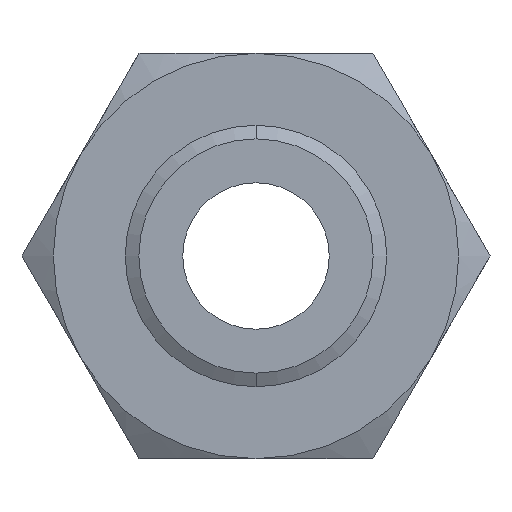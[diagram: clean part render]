
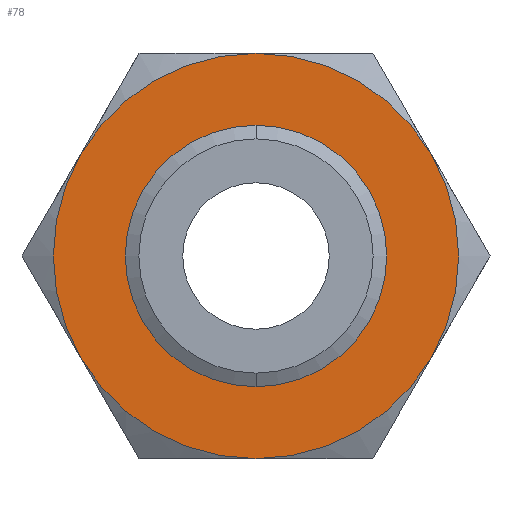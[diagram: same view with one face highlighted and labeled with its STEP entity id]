
A CAD part, front view. The second image highlights one B-rep face of the part: STEP entity #78.
In plain terms, the highlighted planar face has unit normal (0, -1, 0).
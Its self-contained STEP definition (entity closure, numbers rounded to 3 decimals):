
#71 = ORIENTED_EDGE ( 'NONE', *, *, #2187, .F. ) ;
#72 = EDGE_LOOP ( 'NONE', ( #76, #95, #71, #132, #2115, #2118 ) ) ;
#73 = EDGE_CURVE ( 'NONE', #74, #94, #495, .T. ) ;
#74 = VERTEX_POINT ( 'NONE', #487 ) ;
#76 = ORIENTED_EDGE ( 'NONE', *, *, #81, .F. ) ;
#78 = ADVANCED_FACE ( 'NONE', ( #544, #543 ), #542, .F. ) ;
#81 = EDGE_CURVE ( 'NONE', #94, #93, #536, .T. ) ;
#93 = VERTEX_POINT ( 'NONE', #573 ) ;
#94 = VERTEX_POINT ( 'NONE', #569 ) ;
#95 = ORIENTED_EDGE ( 'NONE', *, *, #73, .F. ) ;
#132 = ORIENTED_EDGE ( 'NONE', *, *, #2119, .F. ) ;
#137 = EDGE_CURVE ( 'NONE', #138, #144, #675, .T. ) ;
#138 = VERTEX_POINT ( 'NONE', #670 ) ;
#144 = VERTEX_POINT ( 'NONE', #665 ) ;
#487 = CARTESIAN_POINT ( 'NONE',  ( -67.117, 0., 38.75 ) ) ;
#488 = DIRECTION ( 'NONE',  ( 0., 0., 1. ) ) ;
#489 = DIRECTION ( 'NONE',  ( 0., 1., 0. ) ) ;
#490 = CARTESIAN_POINT ( 'NONE',  ( 0., 0., 0. ) ) ;
#491 = AXIS2_PLACEMENT_3D ( 'NONE', #490, #489, #488 ) ;
#495 = CIRCLE ( 'NONE', #491, 77.5 ) ;
#532 = DIRECTION ( 'NONE',  ( 0., 0., 1. ) ) ;
#533 = DIRECTION ( 'NONE',  ( 0., 1., 0. ) ) ;
#534 = CARTESIAN_POINT ( 'NONE',  ( 0., 0., 0. ) ) ;
#535 = AXIS2_PLACEMENT_3D ( 'NONE', #534, #533, #532 ) ;
#536 = CIRCLE ( 'NONE', #535, 77.5 ) ;
#538 = DIRECTION ( 'NONE',  ( 0., 0., 1. ) ) ;
#539 = DIRECTION ( 'NONE',  ( 0., 1., 0. ) ) ;
#540 = CARTESIAN_POINT ( 'NONE',  ( 44.745, 0., -77.5 ) ) ;
#541 = AXIS2_PLACEMENT_3D ( 'NONE', #540, #539, #538 ) ;
#542 = PLANE ( 'NONE',  #541 ) ;
#543 = FACE_BOUND ( 'NONE', #2122, .T. ) ;
#544 = FACE_OUTER_BOUND ( 'NONE', #72, .T. ) ;
#569 = CARTESIAN_POINT ( 'NONE',  ( 0., 0., 77.5 ) ) ;
#573 = CARTESIAN_POINT ( 'NONE',  ( 67.117, 0., 38.75 ) ) ;
#665 = CARTESIAN_POINT ( 'NONE',  ( 0., 0., 44.804 ) ) ;
#670 = CARTESIAN_POINT ( 'NONE',  ( 0., 0., -44.804 ) ) ;
#671 = DIRECTION ( 'NONE',  ( 0., 0., -1. ) ) ;
#672 = DIRECTION ( 'NONE',  ( 0., -1., 0. ) ) ;
#673 = CARTESIAN_POINT ( 'NONE',  ( 0., 0., 0. ) ) ;
#674 = AXIS2_PLACEMENT_3D ( 'NONE', #673, #672, #671 ) ;
#675 = CIRCLE ( 'NONE', #674, 44.804 ) ;
#1170 = AXIS2_PLACEMENT_3D ( 'NONE', #1237, #1236, #1235 ) ;
#1171 = CIRCLE ( 'NONE', #1170, 77.5 ) ;
#1172 = CARTESIAN_POINT ( 'NONE',  ( 67.117, 0., -38.75 ) ) ;
#1173 = DIRECTION ( 'NONE',  ( 0., 0., -1. ) ) ;
#1174 = DIRECTION ( 'NONE',  ( 0., -1., 0. ) ) ;
#1175 = CARTESIAN_POINT ( 'NONE',  ( 0., 0., 0. ) ) ;
#1176 = AXIS2_PLACEMENT_3D ( 'NONE', #1175, #1174, #1173 ) ;
#1177 = CIRCLE ( 'NONE', #1176, 44.804 ) ;
#1221 = DIRECTION ( 'NONE',  ( 0., 0., 1. ) ) ;
#1222 = DIRECTION ( 'NONE',  ( 0., 1., 0. ) ) ;
#1223 = CARTESIAN_POINT ( 'NONE',  ( 0., 0., 0. ) ) ;
#1224 = AXIS2_PLACEMENT_3D ( 'NONE', #1223, #1222, #1221 ) ;
#1226 = CIRCLE ( 'NONE', #1224, 77.5 ) ;
#1228 = DIRECTION ( 'NONE',  ( 0., 0., 1. ) ) ;
#1229 = DIRECTION ( 'NONE',  ( 0., 1., 0. ) ) ;
#1230 = CARTESIAN_POINT ( 'NONE',  ( 0., 0., 0. ) ) ;
#1231 = AXIS2_PLACEMENT_3D ( 'NONE', #1230, #1229, #1228 ) ;
#1232 = CIRCLE ( 'NONE', #1231, 77.5 ) ;
#1234 = CARTESIAN_POINT ( 'NONE',  ( 0., 0., -77.5 ) ) ;
#1235 = DIRECTION ( 'NONE',  ( 0., 0., 1. ) ) ;
#1236 = DIRECTION ( 'NONE',  ( 0., 1., 0. ) ) ;
#1237 = CARTESIAN_POINT ( 'NONE',  ( 0., 0., 0. ) ) ;
#1360 = DIRECTION ( 'NONE',  ( 0., 0., 1. ) ) ;
#1361 = DIRECTION ( 'NONE',  ( 0., 1., 0. ) ) ;
#1362 = CARTESIAN_POINT ( 'NONE',  ( 0., 0., 0. ) ) ;
#1363 = AXIS2_PLACEMENT_3D ( 'NONE', #1362, #1361, #1360 ) ;
#1364 = CIRCLE ( 'NONE', #1363, 77.5 ) ;
#1365 = CARTESIAN_POINT ( 'NONE',  ( -67.117, 0., -38.75 ) ) ;
#2114 = EDGE_CURVE ( 'NONE', #144, #138, #1177, .T. ) ;
#2115 = ORIENTED_EDGE ( 'NONE', *, *, #2121, .F. ) ;
#2116 = VERTEX_POINT ( 'NONE', #1172 ) ;
#2117 = ORIENTED_EDGE ( 'NONE', *, *, #137, .F. ) ;
#2118 = ORIENTED_EDGE ( 'NONE', *, *, #2125, .F. ) ;
#2119 = EDGE_CURVE ( 'NONE', #2120, #2186, #1171, .T. ) ;
#2120 = VERTEX_POINT ( 'NONE', #1234 ) ;
#2121 = EDGE_CURVE ( 'NONE', #2116, #2120, #1232, .T. ) ;
#2122 = EDGE_LOOP ( 'NONE', ( #2117, #2124 ) ) ;
#2124 = ORIENTED_EDGE ( 'NONE', *, *, #2114, .F. ) ;
#2125 = EDGE_CURVE ( 'NONE', #93, #2116, #1226, .T. ) ;
#2186 = VERTEX_POINT ( 'NONE', #1365 ) ;
#2187 = EDGE_CURVE ( 'NONE', #2186, #74, #1364, .T. ) ;
